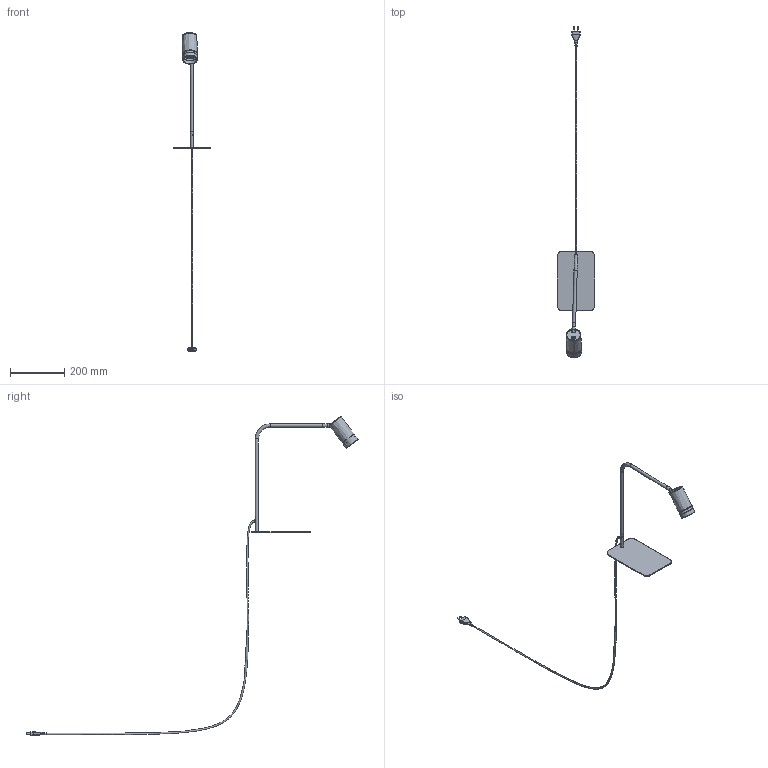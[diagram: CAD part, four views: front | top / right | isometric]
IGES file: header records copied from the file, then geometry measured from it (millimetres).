
Start section: SolidWorks IGES file using NURBS representation for surfaces
Global section: file name: 1HZ:\Modele 3D_WWW\_KOLEKCJE_WWW\MONO\MONO-PODΜGA\7713\MONO-BIURKOWA-GOLD-7713.IGS; native system: SolidWorks 2021; preprocessor: SolidWorks 2021; author: gabriela.tworek; date: 220127.080815; units: millimetre
Bounding box: 140 x 1229.44 x 1181.47 mm (x, y, z)
Surface area: 170250.2 mm2 (no closed solid volume)
Topology: 0 solids, 0 shells, 108 faces, 569 edges, 546 vertices
Faces by surface type: bspline 108
